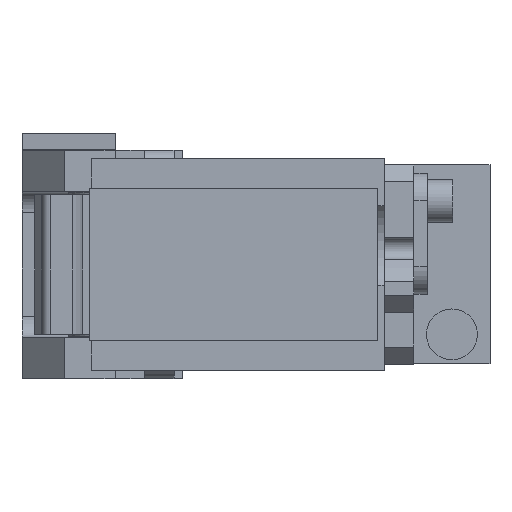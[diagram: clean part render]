
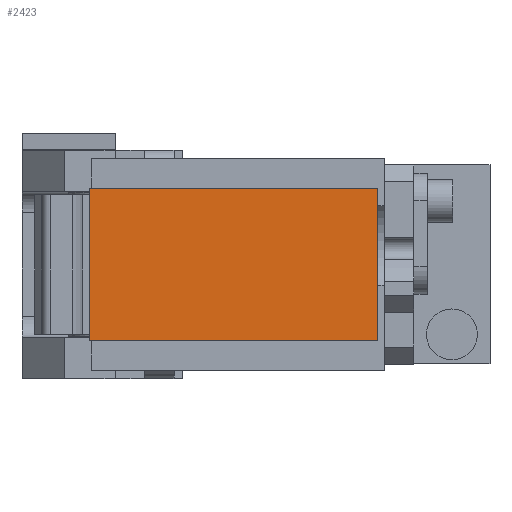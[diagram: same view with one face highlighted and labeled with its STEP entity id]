
A CAD part, front view. The second image highlights one B-rep face of the part: STEP entity #2423.
In plain terms, the highlighted planar face has unit normal (0, -1, 0).
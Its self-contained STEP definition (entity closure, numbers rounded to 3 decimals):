
#371 = VERTEX_POINT ( 'NONE', #9028 ) ;
#1087 = ORIENTED_EDGE ( 'NONE', *, *, #1444, .T. ) ;
#1203 = DIRECTION ( 'NONE',  ( 0., -1., 0. ) ) ;
#1335 = VECTOR ( 'NONE', #9147, 1000. ) ;
#1444 = EDGE_CURVE ( 'NONE', #4720, #371, #4602, .T. ) ;
#2171 = CARTESIAN_POINT ( 'NONE',  ( 62., -233., 18. ) ) ;
#2423 = ADVANCED_FACE ( 'NONE', ( #9113 ), #13660, .T. ) ;
#3738 = EDGE_CURVE ( 'NONE', #14421, #4720, #6311, .T. ) ;
#3941 = CARTESIAN_POINT ( 'NONE',  ( -6., -233., 18. ) ) ;
#4193 = ORIENTED_EDGE ( 'NONE', *, *, #13734, .T. ) ;
#4602 = LINE ( 'NONE', #6970, #1335 ) ;
#4628 = LINE ( 'NONE', #5518, #5189 ) ;
#4720 = VERTEX_POINT ( 'NONE', #2171 ) ;
#5127 = AXIS2_PLACEMENT_3D ( 'NONE', #6863, #1203, #12633 ) ;
#5189 = VECTOR ( 'NONE', #5737, 1000. ) ;
#5518 = CARTESIAN_POINT ( 'NONE',  ( -6., -233., -18. ) ) ;
#5737 = DIRECTION ( 'NONE',  ( 1., 0., 0. ) ) ;
#6226 = VECTOR ( 'NONE', #10885, 1000. ) ;
#6311 = LINE ( 'NONE', #14329, #6226 ) ;
#6863 = CARTESIAN_POINT ( 'NONE',  ( 0., -233., 0. ) ) ;
#6970 = CARTESIAN_POINT ( 'NONE',  ( -6., -233., 18. ) ) ;
#8149 = VERTEX_POINT ( 'NONE', #11200 ) ;
#8413 = EDGE_CURVE ( 'NONE', #371, #8149, #8479, .T. ) ;
#8479 = LINE ( 'NONE', #3941, #10489 ) ;
#8578 = DIRECTION ( 'NONE',  ( 0., 0., -1. ) ) ;
#9028 = CARTESIAN_POINT ( 'NONE',  ( -6., -233., 18. ) ) ;
#9113 = FACE_OUTER_BOUND ( 'NONE', #11455, .T. ) ;
#9147 = DIRECTION ( 'NONE',  ( -1., 0., 0. ) ) ;
#9744 = CARTESIAN_POINT ( 'NONE',  ( 62., -233., -18. ) ) ;
#10095 = ORIENTED_EDGE ( 'NONE', *, *, #3738, .T. ) ;
#10489 = VECTOR ( 'NONE', #8578, 1000. ) ;
#10885 = DIRECTION ( 'NONE',  ( 0., 0., 1. ) ) ;
#11131 = ORIENTED_EDGE ( 'NONE', *, *, #8413, .T. ) ;
#11200 = CARTESIAN_POINT ( 'NONE',  ( -6., -233., -18. ) ) ;
#11455 = EDGE_LOOP ( 'NONE', ( #11131, #4193, #10095, #1087 ) ) ;
#12633 = DIRECTION ( 'NONE',  ( 0., 0., -1. ) ) ;
#13660 = PLANE ( 'NONE',  #5127 ) ;
#13734 = EDGE_CURVE ( 'NONE', #8149, #14421, #4628, .T. ) ;
#14329 = CARTESIAN_POINT ( 'NONE',  ( 62., -233., 18. ) ) ;
#14421 = VERTEX_POINT ( 'NONE', #9744 ) ;
